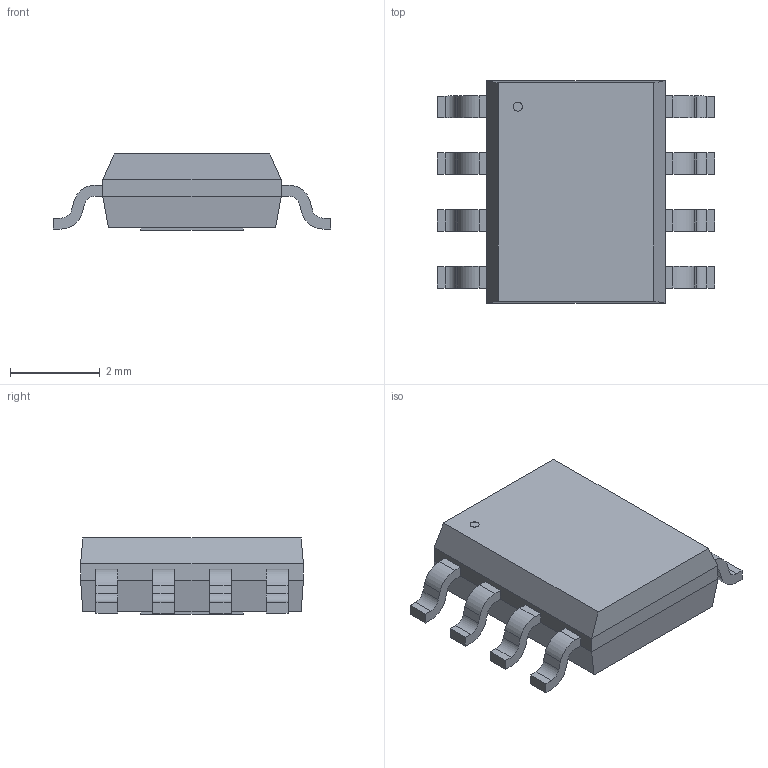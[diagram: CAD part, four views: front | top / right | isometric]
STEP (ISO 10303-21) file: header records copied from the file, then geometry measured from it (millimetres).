
FILE_DESCRIPTION(('STEP AP214'),'1');
FILE_NAME('MRA08A-M','2019-09-13T04:08:48',(''),(''),'','','');
FILE_SCHEMA(('AUTOMOTIVE_DESIGN'));
Length unit declared in the file: millimetre
Products named in the file (1): product
Bounding box: 6.2 x 4.98 x 1.7 mm (x, y, z)
Surface area: 95.2 mm2
Topology: 1 solids, 133 shells, 135 faces, 659 edges, 658 vertices
Faces by surface type: plane 102, cylinder 33
Full cylindrical faces by diameter (mm): 0.199 x1
Entity records: 7332 total; most frequent: CARTESIAN_POINT 1453, VERTEX_POINT 1314, DIRECTION 1062, ORIENTED_EDGE 660, EDGE_CURVE 658, LINE 528, VECTOR 528, AXIS2_PLACEMENT_3D 267
